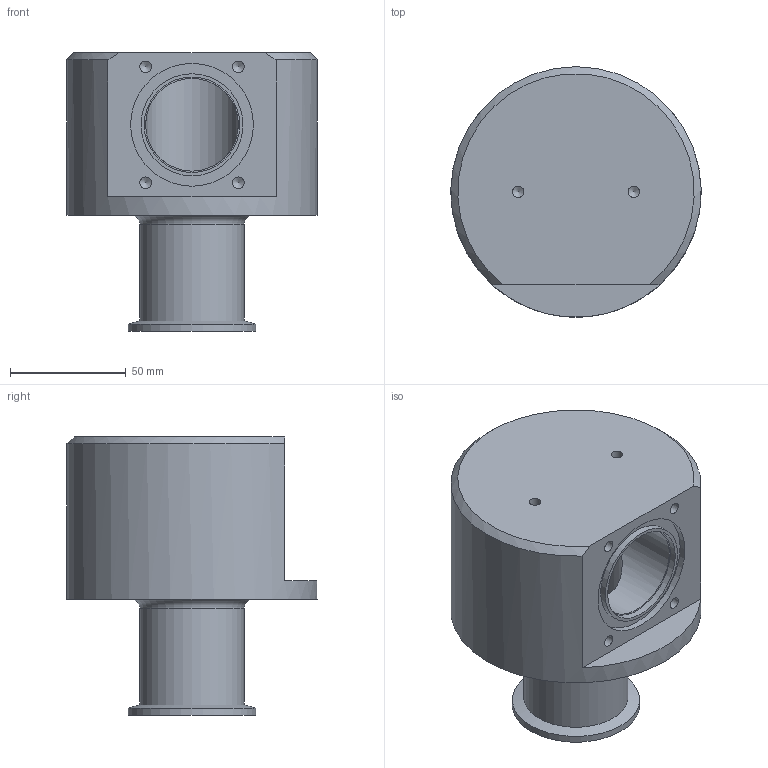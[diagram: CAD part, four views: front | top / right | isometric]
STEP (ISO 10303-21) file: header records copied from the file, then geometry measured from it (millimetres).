
FILE_DESCRIPTION(/* description */ (''),/* implementation_level */ '2;1');
FILE_NAME(/* name */ '102_cooling_FT-90.stp',/* time_stamp */ '2020-11-09T14:45:48+01:00',/* author */ (''),/* organization */ (''),/* preprocessor_version */ 'ST-DEVELOPER v16.7',/* originating_system */ 'SIEMENS PLM Software NX 12.0',/* authorisation */ '');
FILE_SCHEMA (('AUTOMOTIVE_DESIGN { 1 0 10303 214 3 1 1 1 }'));
Length unit declared in the file: millimetre
Products named in the file (1): bez430C4A55itfn
Bounding box: 108 x 108 x 120 mm (x, y, z)
Volume: 505071.4 mm3; surface area: 67082.1 mm2
Topology: 1 solids, 1 shells, 40 faces, 96 edges, 64 vertices
Faces by surface type: cylinder 18, cone 11, plane 10, torus 1
Full cylindrical faces by diameter (mm): 5 x9, 40 x2, 41.2 x2, 44 x1, 45 x1, 53 x1, 55 x1, 108 x1
Entity records: 920 total; most frequent: DIRECTION 166, CARTESIAN_POINT 145, ORIENTED_EDGE 92, FACE_BOUND 83, AXIS2_PLACEMENT_3D 81, EDGE_LOOP 77, VERTEX_POINT 52, EDGE_CURVE 46
